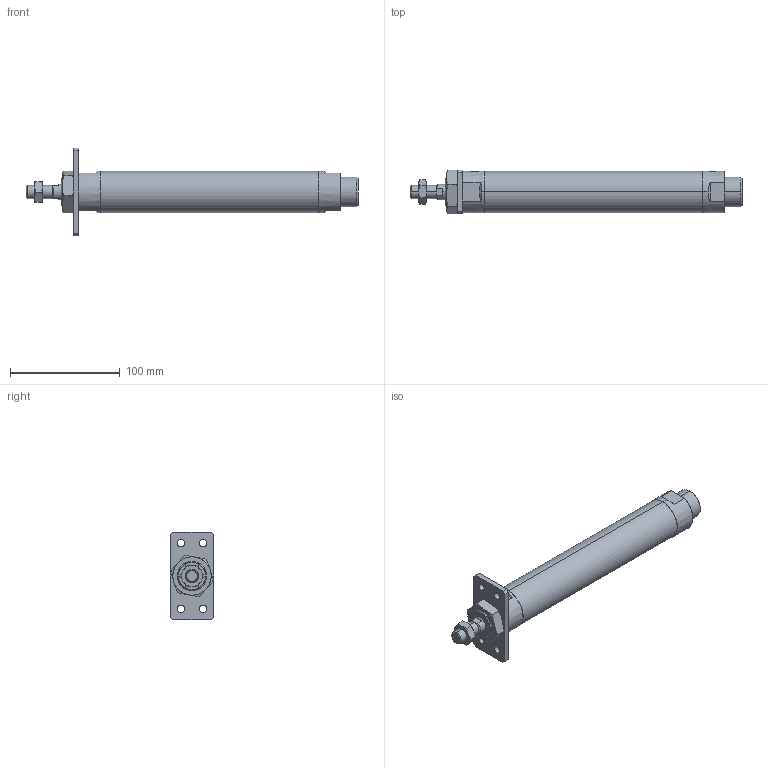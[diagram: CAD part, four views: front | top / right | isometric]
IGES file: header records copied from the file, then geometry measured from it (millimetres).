
Start section: SolidWorks IGES file using analytic representation for surfaces
Global section: file name: C:\Users\Toshiba\Desktop\J#2-32-150-A.IGS; native system: SolidWorks 2014; preprocessor: SolidWorks 2014; author: Toshiba; date: 160308.154020; units: millimetre
Bounding box: 303 x 40 x 80 mm (x, y, z)
Surface area: 46500 mm2 (no closed solid volume)
Topology: 0 solids, 0 shells, 114 faces, 2060 edges, 2056 vertices
Faces by surface type: bspline 67, revolution 47
